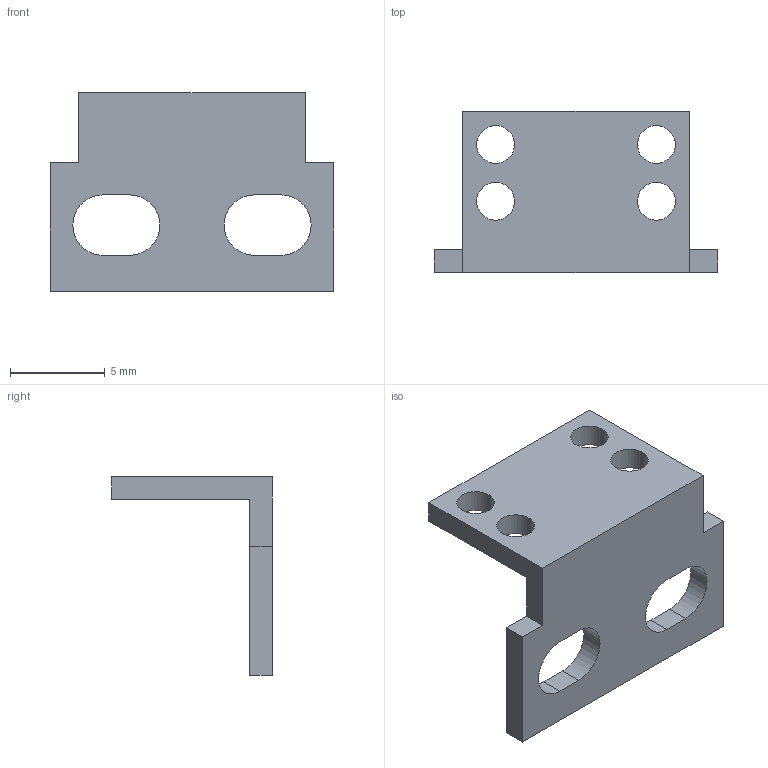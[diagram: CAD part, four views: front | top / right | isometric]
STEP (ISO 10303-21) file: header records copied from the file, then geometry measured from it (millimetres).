
FILE_DESCRIPTION (( 'STEP AP203' ), '1' );
FILE_NAME ('ms-exz-1.STEP', '2015-04-21T01:11:08', ( '' ), ( '' ), 'SwSTEP 2.0', 'SolidWorks 2010', '' );
FILE_SCHEMA (( 'CONFIG_CONTROL_DESIGN' ));
Length unit declared in the file: millimetre
Products named in the file (1): ms-exz-1
Bounding box: 15 x 8.5 x 10.5 mm (x, y, z)
Volume: 235.7 mm3; surface area: 532.5 mm2
Topology: 1 solids, 1 shells, 28 faces, 78 edges, 52 vertices
Faces by surface type: plane 16, cylinder 12
Entity records: 1007 total; most frequent: DIRECTION 160, CARTESIAN_POINT 159, ORIENTED_EDGE 156, EDGE_CURVE 78, VECTOR 54, LINE 54, AXIS2_PLACEMENT_3D 53, VERTEX_POINT 52
